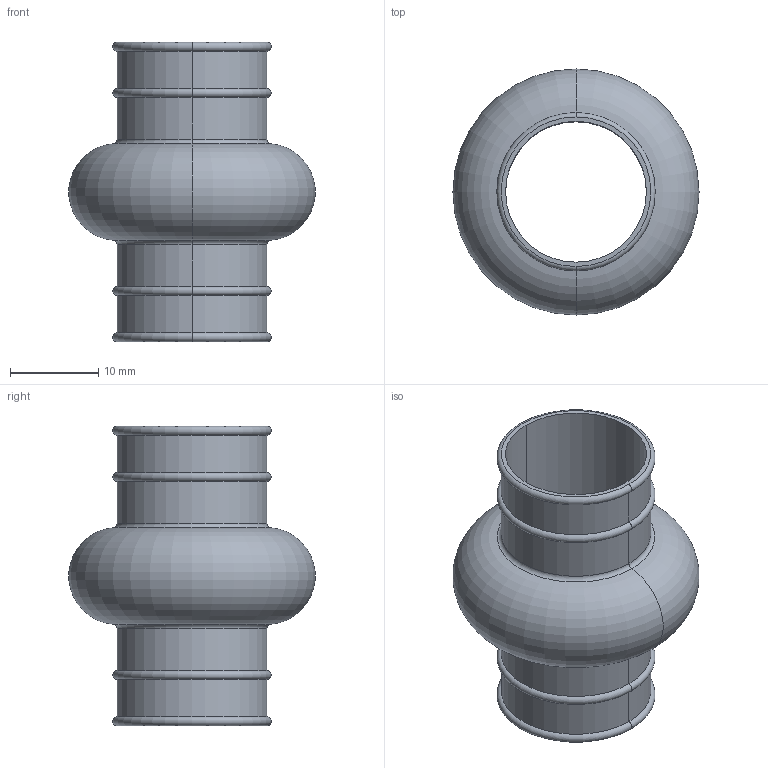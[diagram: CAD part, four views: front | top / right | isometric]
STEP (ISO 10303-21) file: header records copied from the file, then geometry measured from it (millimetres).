
FILE_DESCRIPTION (( 'STEP AP203' ), '1' );
FILE_NAME ('65280.W0016.step', '2018-06-20T18:11:17', ( '' ), ( '' ), 'SwSTEP 2.0', 'SolidWorks 2017', '' );
FILE_SCHEMA (( 'CONFIG_CONTROL_DESIGN' ));
Length unit declared in the file: millimetre
Products named in the file (1): 65280.W0016
Bounding box: 27.96 x 27.96 x 34 mm (x, y, z)
Volume: 1327.3 mm3; surface area: 5111 mm2
Topology: 1 solids, 1 shells, 30 faces, 60 edges, 32 vertices
Faces by surface type: torus 16, cylinder 12, plane 2
Entity records: 861 total; most frequent: DIRECTION 170, CARTESIAN_POINT 123, ORIENTED_EDGE 120, AXIS2_PLACEMENT_3D 79, EDGE_CURVE 60, CIRCLE 48, EDGE_LOOP 32, VERTEX_POINT 32
